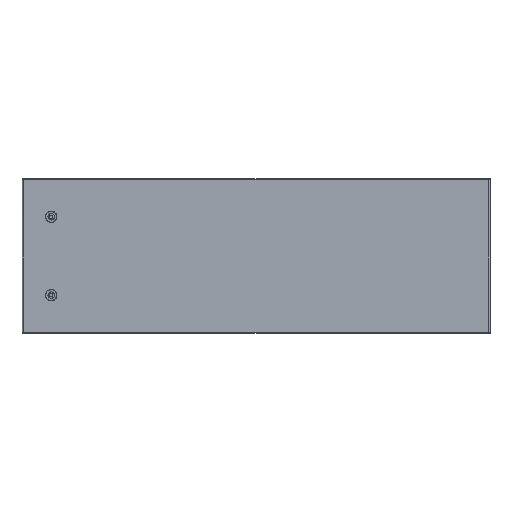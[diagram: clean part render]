
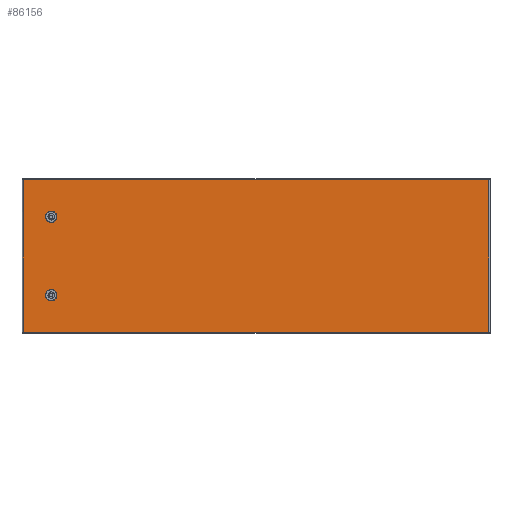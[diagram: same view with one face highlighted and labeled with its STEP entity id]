
A CAD part, top view. The second image highlights one B-rep face of the part: STEP entity #86156.
In plain terms, the highlighted planar face has unit normal (0, 0, 1).
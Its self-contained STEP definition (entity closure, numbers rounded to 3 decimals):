
#85301=CARTESIAN_POINT(' ',(2.8,0.8,0.));
#85306=DIRECTION(' ',(1.,0.,0.));
#85311=VECTOR(' ',#85306,1.);
#85316=LINE('',#85301,#85311);
#85321=CARTESIAN_POINT(' ',(2.8,0.8,0.));
#85322=VERTEX_POINT(' ',#85321);
#85326=CARTESIAN_POINT(' ',(1191.2,0.8,0.));
#85327=VERTEX_POINT(' ',#85326);
#85331=EDGE_CURVE(' ',#85322,#85327,#85316,.T.);
#86016=DIRECTION(' ',(-0.,-0.,1.));
#86021=CARTESIAN_POINT(' ',(1191.2,0.8,0.));
#86026=DIRECTION(' ',(0.,1.,0.));
#86031=AXIS2_PLACEMENT_3D(' ',#86021,#86016,#86026);
#86036=PLANE('NONE',#86031);
#86041=ORIENTED_EDGE(' ',*,*,#85331,.T.);
#86046=CARTESIAN_POINT(' ',(1191.2,390.2,0.));
#86051=DIRECTION(' ',(0.,-1.,0.));
#86056=VECTOR(' ',#86051,1.);
#86061=LINE('',#86046,#86056);
#86066=CARTESIAN_POINT(' ',(1191.2,390.2,0.));
#86067=VERTEX_POINT(' ',#86066);
#86071=EDGE_CURVE(' ',#86067,#85327,#86061,.T.);
#86076=ORIENTED_EDGE(' ',*,*,#86071,.F.);
#86081=CARTESIAN_POINT(' ',(1191.2,390.2,0.));
#86086=DIRECTION(' ',(-1.,0.,0.));
#86091=VECTOR(' ',#86086,1.);
#86096=LINE('',#86081,#86091);
#86101=CARTESIAN_POINT(' ',(2.8,390.2,0.));
#86102=VERTEX_POINT(' ',#86101);
#86106=EDGE_CURVE(' ',#86067,#86102,#86096,.T.);
#86111=ORIENTED_EDGE(' ',*,*,#86106,.T.);
#86116=CARTESIAN_POINT(' ',(2.8,390.2,0.));
#86121=DIRECTION(' ',(0.,-1.,0.));
#86126=VECTOR(' ',#86121,1.);
#86131=LINE('',#86116,#86126);
#86136=EDGE_CURVE(' ',#86102,#85322,#86131,.T.);
#86141=ORIENTED_EDGE(' ',*,*,#86136,.T.);
#86146=EDGE_LOOP(' ',(#86041,#86076,#86111,#86141));
#86151=FACE_OUTER_BOUND(' ',#86146,.T.);
#86156=ADVANCED_FACE('NONE',(#86151),#86036,.T.);
